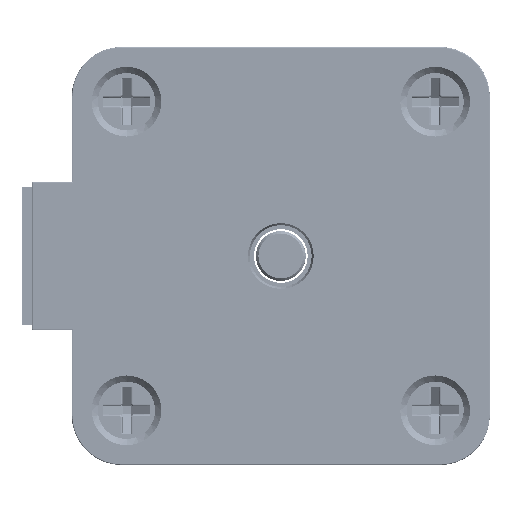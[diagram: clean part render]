
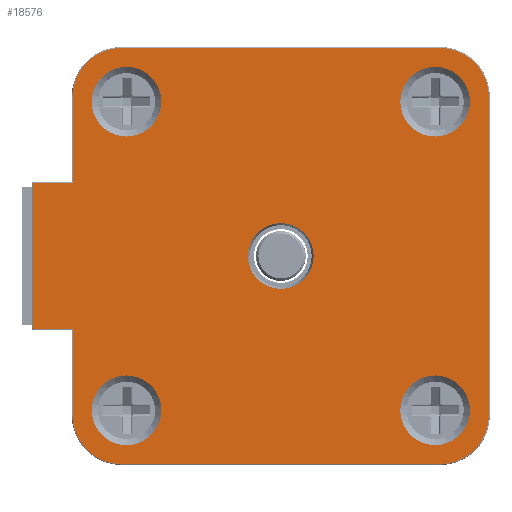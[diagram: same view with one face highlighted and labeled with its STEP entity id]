
A CAD part, front view. The second image highlights one B-rep face of the part: STEP entity #18576.
In plain terms, the highlighted planar face has unit normal (0, -1, 0).
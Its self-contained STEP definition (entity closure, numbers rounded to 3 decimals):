
#252=FACE_BOUND('',#2593,.T.);
#253=FACE_BOUND('',#2594,.T.);
#254=FACE_BOUND('',#2595,.T.);
#255=FACE_BOUND('',#2596,.T.);
#256=FACE_BOUND('',#2597,.T.);
#574=PLANE('',#20134);
#1505=FACE_OUTER_BOUND('',#2592,.T.);
#2592=EDGE_LOOP('',(#15805,#15806,#15807,#15808,#15809,#15810,#15811,#15812,
#15813,#15814,#15815,#15816));
#2593=EDGE_LOOP('',(#15817));
#2594=EDGE_LOOP('',(#15818));
#2595=EDGE_LOOP('',(#15819));
#2596=EDGE_LOOP('',(#15820));
#2597=EDGE_LOOP('',(#15821));
#3150=CIRCLE('',#20135,4.9);
#3151=CIRCLE('',#20136,4.9);
#3152=CIRCLE('',#20137,4.9);
#3153=CIRCLE('',#20138,4.9);
#3154=CIRCLE('',#20139,3.3);
#3155=CIRCLE('',#20140,3.5);
#3156=CIRCLE('',#20141,3.5);
#3157=CIRCLE('',#20142,3.5);
#3158=CIRCLE('',#20143,3.5);
#5177=LINE('',#58337,#6475);
#5183=LINE('',#58352,#6481);
#5184=LINE('',#58375,#6482);
#5185=LINE('',#58379,#6483);
#5186=LINE('',#58383,#6484);
#5187=LINE('',#58387,#6485);
#5188=LINE('',#58390,#6486);
#5189=LINE('',#58391,#6487);
#6475=VECTOR('',#23648,10.);
#6481=VECTOR('',#23660,10.);
#6482=VECTOR('',#23665,10.);
#6483=VECTOR('',#23668,10.);
#6484=VECTOR('',#23671,10.);
#6485=VECTOR('',#23674,10.);
#6486=VECTOR('',#23677,10.);
#6487=VECTOR('',#23678,10.);
#8315=VERTEX_POINT('',#58322);
#8316=VERTEX_POINT('',#58326);
#8321=VERTEX_POINT('',#58349);
#8322=VERTEX_POINT('',#58351);
#8323=VERTEX_POINT('',#58374);
#8324=VERTEX_POINT('',#58376);
#8325=VERTEX_POINT('',#58378);
#8326=VERTEX_POINT('',#58380);
#8327=VERTEX_POINT('',#58382);
#8328=VERTEX_POINT('',#58384);
#8329=VERTEX_POINT('',#58386);
#8330=VERTEX_POINT('',#58388);
#8331=VERTEX_POINT('',#58392);
#8332=VERTEX_POINT('',#58394);
#8333=VERTEX_POINT('',#58396);
#8334=VERTEX_POINT('',#58398);
#8335=VERTEX_POINT('',#58400);
#10855=EDGE_CURVE('',#8316,#8315,#5177,.T.);
#10862=EDGE_CURVE('',#8321,#8322,#5183,.T.);
#10865=EDGE_CURVE('',#8323,#8316,#5184,.T.);
#10866=EDGE_CURVE('',#8324,#8323,#3150,.T.);
#10867=EDGE_CURVE('',#8325,#8324,#5185,.T.);
#10868=EDGE_CURVE('',#8326,#8325,#3151,.T.);
#10869=EDGE_CURVE('',#8327,#8326,#5186,.T.);
#10870=EDGE_CURVE('',#8328,#8327,#3152,.T.);
#10871=EDGE_CURVE('',#8329,#8328,#5187,.T.);
#10872=EDGE_CURVE('',#8330,#8329,#3153,.T.);
#10873=EDGE_CURVE('',#8322,#8330,#5188,.T.);
#10874=EDGE_CURVE('',#8315,#8321,#5189,.T.);
#10875=EDGE_CURVE('',#8331,#8331,#3154,.T.);
#10876=EDGE_CURVE('',#8332,#8332,#3155,.T.);
#10877=EDGE_CURVE('',#8333,#8333,#3156,.T.);
#10878=EDGE_CURVE('',#8334,#8334,#3157,.T.);
#10879=EDGE_CURVE('',#8335,#8335,#3158,.T.);
#15805=ORIENTED_EDGE('',*,*,#10865,.F.);
#15806=ORIENTED_EDGE('',*,*,#10866,.F.);
#15807=ORIENTED_EDGE('',*,*,#10867,.F.);
#15808=ORIENTED_EDGE('',*,*,#10868,.F.);
#15809=ORIENTED_EDGE('',*,*,#10869,.F.);
#15810=ORIENTED_EDGE('',*,*,#10870,.F.);
#15811=ORIENTED_EDGE('',*,*,#10871,.F.);
#15812=ORIENTED_EDGE('',*,*,#10872,.F.);
#15813=ORIENTED_EDGE('',*,*,#10873,.F.);
#15814=ORIENTED_EDGE('',*,*,#10862,.F.);
#15815=ORIENTED_EDGE('',*,*,#10874,.F.);
#15816=ORIENTED_EDGE('',*,*,#10855,.F.);
#15817=ORIENTED_EDGE('',*,*,#10875,.T.);
#15818=ORIENTED_EDGE('',*,*,#10876,.F.);
#15819=ORIENTED_EDGE('',*,*,#10877,.F.);
#15820=ORIENTED_EDGE('',*,*,#10878,.F.);
#15821=ORIENTED_EDGE('',*,*,#10879,.F.);
#18576=ADVANCED_FACE('',(#1505,#252,#253,#254,#255,#256),#574,.F.);
#20134=AXIS2_PLACEMENT_3D('',#58373,#23663,#23664);
#20135=AXIS2_PLACEMENT_3D('',#58377,#23666,#23667);
#20136=AXIS2_PLACEMENT_3D('',#58381,#23669,#23670);
#20137=AXIS2_PLACEMENT_3D('',#58385,#23672,#23673);
#20138=AXIS2_PLACEMENT_3D('',#58389,#23675,#23676);
#20139=AXIS2_PLACEMENT_3D('',#58393,#23679,#23680);
#20140=AXIS2_PLACEMENT_3D('',#58395,#23681,#23682);
#20141=AXIS2_PLACEMENT_3D('',#58397,#23683,#23684);
#20142=AXIS2_PLACEMENT_3D('',#58399,#23685,#23686);
#20143=AXIS2_PLACEMENT_3D('',#58401,#23687,#23688);
#23648=DIRECTION('',(-1.,0.,0.));
#23660=DIRECTION('',(1.,0.,0.));
#23663=DIRECTION('center_axis',(0.,1.,0.));
#23664=DIRECTION('ref_axis',(0.,0.,
1.));
#23665=DIRECTION('',(0.,0.,1.));
#23666=DIRECTION('center_axis',(0.,1.,0.));
#23667=DIRECTION('ref_axis',(-0.707,0.,-0.707));
#23668=DIRECTION('',(-1.,0.,0.));
#23669=DIRECTION('center_axis',(0.,1.,0.));
#23670=DIRECTION('ref_axis',(0.707,0.,-0.707));
#23671=DIRECTION('',(0.,0.,-1.));
#23672=DIRECTION('center_axis',(0.,1.,0.));
#23673=DIRECTION('ref_axis',(0.707,0.,0.707));
#23674=DIRECTION('',(1.,0.,0.));
#23675=DIRECTION('center_axis',(0.,1.,0.));
#23676=DIRECTION('ref_axis',(-0.707,0.,0.707));
#23677=DIRECTION('',(0.,0.,1.));
#23678=DIRECTION('',(0.,0.,1.));
#23679=DIRECTION('center_axis',(0.,1.,0.));
#23680=DIRECTION('ref_axis',(0.,0.,
1.));
#23681=DIRECTION('center_axis',(0.,-1.,0.));
#23682=DIRECTION('ref_axis',(0.,0.,
1.));
#23683=DIRECTION('center_axis',(0.,-1.,0.));
#23684=DIRECTION('ref_axis',(0.,0.,
1.));
#23685=DIRECTION('center_axis',(0.,-1.,0.));
#23686=DIRECTION('ref_axis',(0.,0.,
1.));
#23687=DIRECTION('center_axis',(0.,-1.,0.));
#23688=DIRECTION('ref_axis',(0.,0.,
1.));
#58322=CARTESIAN_POINT('',(-22.408,-1.618,-9.83));
#58326=CARTESIAN_POINT('',(-18.408,-1.618,-9.83));
#58337=CARTESIAN_POINT('',(-8.008,-1.618,-9.83));
#58349=CARTESIAN_POINT('',(-22.408,-1.618,4.91));
#58351=CARTESIAN_POINT('',(-18.408,-1.618,4.91));
#58352=CARTESIAN_POINT('',(-8.008,-1.618,4.91));
#58373=CARTESIAN_POINT('Origin',(2.492,-1.618,-2.46));
#58374=CARTESIAN_POINT('',(-18.408,-1.618,-18.46));
#58375=CARTESIAN_POINT('',(-18.408,-1.618,-10.46));
#58376=CARTESIAN_POINT('',(-13.508,-1.618,-23.36));
#58377=CARTESIAN_POINT('Origin',(-13.508,-1.618,-18.46));
#58378=CARTESIAN_POINT('',(18.492,-1.618,-23.36));
#58379=CARTESIAN_POINT('',(10.492,-1.618,-23.36));
#58380=CARTESIAN_POINT('',(23.392,-1.618,-18.46));
#58381=CARTESIAN_POINT('Origin',(18.492,-1.618,-18.46));
#58382=CARTESIAN_POINT('',(23.392,-1.618,13.54));
#58383=CARTESIAN_POINT('',(23.392,-1.618,5.54));
#58384=CARTESIAN_POINT('',(18.492,-1.618,18.44));
#58385=CARTESIAN_POINT('Origin',(18.492,-1.618,13.54));
#58386=CARTESIAN_POINT('',(-13.508,-1.618,18.44));
#58387=CARTESIAN_POINT('',(-5.508,-1.618,18.44));
#58388=CARTESIAN_POINT('',(-18.408,-1.618,13.54));
#58389=CARTESIAN_POINT('Origin',(-13.508,-1.618,13.54));
#58390=CARTESIAN_POINT('',(-18.408,-1.618,-10.46));
#58391=CARTESIAN_POINT('',(-22.408,-1.618,-2.46));
#58392=CARTESIAN_POINT('',(2.492,-1.618,-5.76));
#58393=CARTESIAN_POINT('Origin',(2.492,-1.618,-2.46));
#58394=CARTESIAN_POINT('',(17.992,-1.618,-21.46));
#58395=CARTESIAN_POINT('Origin',(17.992,-1.618,-17.96));
#58396=CARTESIAN_POINT('',(-13.008,-1.618,9.54));
#58397=CARTESIAN_POINT('Origin',(-13.008,-1.618,13.04));
#58398=CARTESIAN_POINT('',(17.992,-1.618,9.54));
#58399=CARTESIAN_POINT('Origin',(17.992,-1.618,13.04));
#58400=CARTESIAN_POINT('',(-13.008,-1.618,-21.46));
#58401=CARTESIAN_POINT('Origin',(-13.008,-1.618,-17.96));
